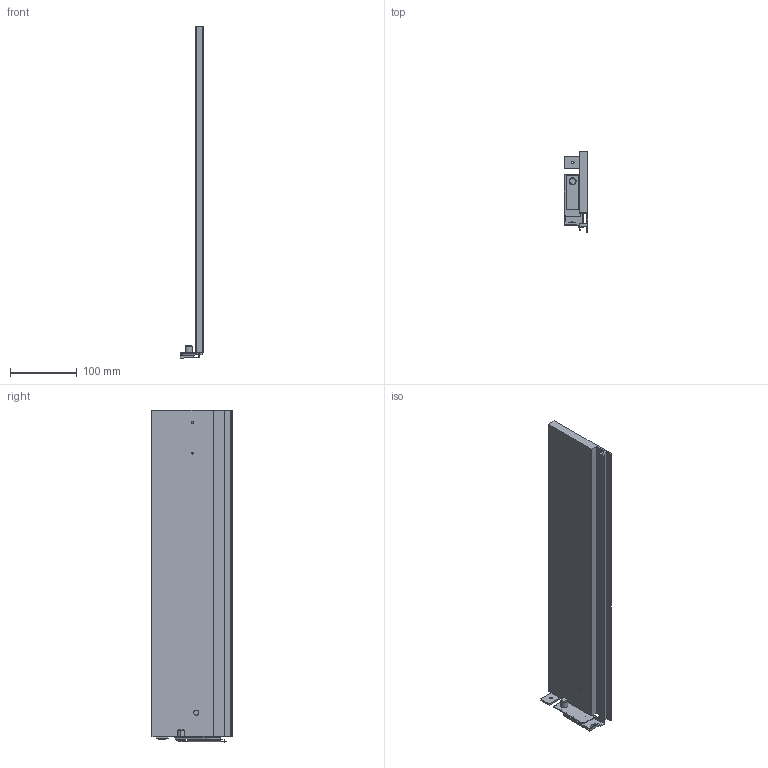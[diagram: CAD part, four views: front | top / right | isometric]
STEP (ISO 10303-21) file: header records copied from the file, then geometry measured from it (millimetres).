
FILE_DESCRIPTION (( 'STEP AP214' ), '1' );
FILE_NAME ('Vionaro_Alu-Zarge_H121_NL500_RE.STEP', '2014-08-18T11:19:38', ( '' ), ( '' ), 'SwSTEP 2.0', 'SolidWorks 2013', '' );
FILE_SCHEMA (( 'AUTOMOTIVE_DESIGN' ));
Length unit declared in the file: millimetre
Products named in the file (1): Vionaro_Alu-Zarge_H121_NL500_RE
Bounding box: 35.61 x 121 x 497.9 mm (x, y, z)
Volume: 650533.3 mm3; surface area: 161144.5 mm2
Topology: 1 solids, 1 shells, 112 faces, 299 edges, 196 vertices
Faces by surface type: plane 88, cylinder 20, cone 4
Entity records: 3491 total; most frequent: CARTESIAN_POINT 614, ORIENTED_EDGE 598, DIRECTION 569, EDGE_CURVE 299, VECTOR 251, LINE 251, VERTEX_POINT 196, AXIS2_PLACEMENT_3D 159
